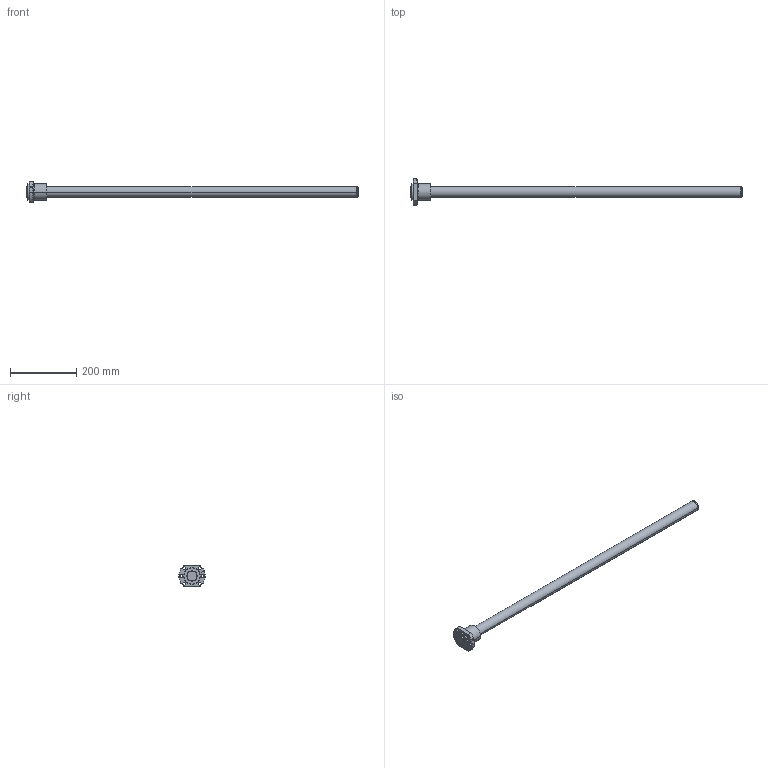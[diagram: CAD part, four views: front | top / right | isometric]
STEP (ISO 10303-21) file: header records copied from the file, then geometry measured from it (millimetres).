
FILE_DESCRIPTION( ( '' ), '1' );
FILE_NAME( 'C:/Users/v3-771-32344/Desktop/EBB STEP/EBB 3205-4 RRNone+1000L C7(933070)-ebb3.stp', '2015-08-27T13:38:06', ( '' ), ( '' ), ' ', ' ', ' ' );
FILE_SCHEMA( ( 'CONFIG_CONTROL_DESIGN' ) );
Length unit declared in the file: millimetre
Products named in the file (2): 1; 2
Bounding box: 1000 x 80 x 62 mm (x, y, z)
Volume: 893169.7 mm3; surface area: 127653.4 mm2
Topology: 2 solids, 2 shells, 67 faces, 155 edges, 99 vertices
Faces by surface type: cylinder 36, cone 18, plane 13
Entity records: 2167 total; most frequent: CARTESIAN_POINT 473, DIRECTION 366, ORIENTED_EDGE 310, AXIS2_PLACEMENT_3D 155, EDGE_CURVE 155, VERTEX_POINT 99, EDGE_LOOP 90, CIRCLE 86
